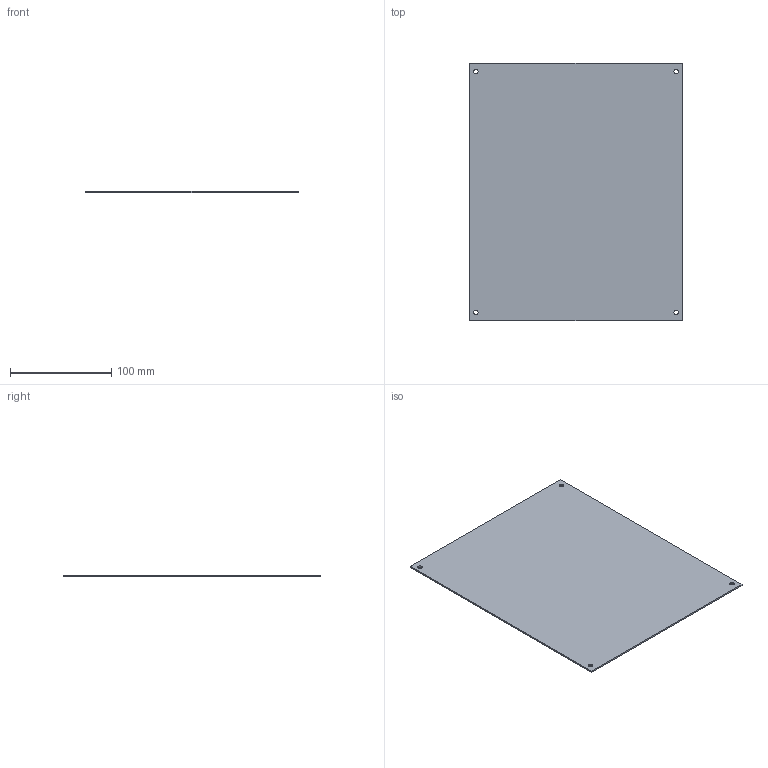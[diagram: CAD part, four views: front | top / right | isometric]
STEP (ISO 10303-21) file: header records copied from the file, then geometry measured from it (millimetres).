
FILE_DESCRIPTION(/* description */ (''),/* implementation_level */ '2;1');
FILE_NAME(/* name */ '4010450.stp',/* time_stamp */ '2020-07-02T07:55:32+02:00',/* author */ (''),/* organization */ (''),/* preprocessor_version */ 'ST-DEVELOPER v16.7',/* originating_system */ 'SIEMENS PLM Software NX 1892',/* authorisation */ '');
FILE_SCHEMA (('AUTOMOTIVE_DESIGN { 1 0 10303 214 3 1 1 1 }'));
Length unit declared in the file: millimetre
Products named in the file (1): RGGM09B06C58tvcm
Bounding box: 210 x 254 x 1.5 mm (x, y, z)
Volume: 79914.6 mm3; surface area: 108029.6 mm2
Topology: 1 solids, 1 shells, 10 faces, 28 edges, 20 vertices
Faces by surface type: plane 6, cylinder 4
Full cylindrical faces by diameter (mm): 4.5 x4
Entity records: 325 total; most frequent: DIRECTION 50, CARTESIAN_POINT 47, ORIENTED_EDGE 40, EDGE_LOOP 22, EDGE_CURVE 20, AXIS2_PLACEMENT_3D 19, FACE_BOUND 18, VERTEX_POINT 16
